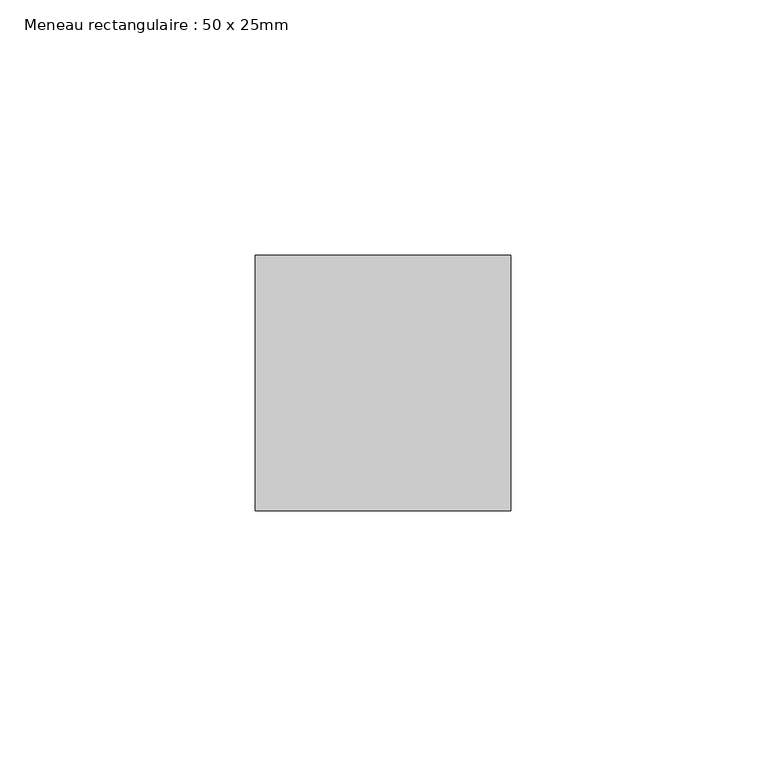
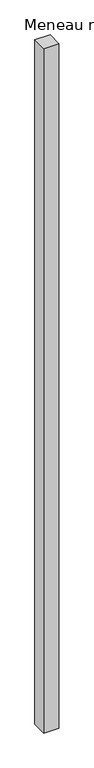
"""IFC4 building model written with IfcOpenShell, lengths in millimetres: member geometry, Meneau rectangulaire : 50 x 25mm."""

from ifc_helpers import new_model, si_unit, frame, origin, place, context, project, spatial, polyline, outline, extrude, source, transform, mapped, element, save


def meneau_rectangulaire_50_x_25mm_c9cfe702(model_context):
    return source(origin(), model_context, "Body", "SweptSolid", [
        extrude(outline(polyline([(25.0, 0.0), (25.0, -50.0), (-25.0, -50.0), (-25.0, 0.0), (25.0, 0.0)])), frame((0.0, 0.0, -2371.0), z_axis=(0.0, 0.0, 1.0), x_axis=(1.0, 0.0, 0.0)), (0.0, 0.0, 1.0), 2371.0),
    ])


if __name__ == "__main__":
    model = new_model("IFC4")
    model_context = context("Model", 3, world=origin())
    ifc_project = project(units=[si_unit("LENGTHUNIT", "METRE", prefix="MILLI")], contexts=[model_context])
    site = spatial("IfcSite", under=ifc_project)
    building = spatial("IfcBuilding", under=site)
    placement = place(None, origin())
    meneau_rectangulaire_50_x_25mm_shape = meneau_rectangulaire_50_x_25mm_c9cfe702(model_context)
    element("IfcMember", 1, ObjectType="Meneau rectangulaire : 50 x 25mm", at=placement, inside=building, context=model_context, shape_type="MappedRepresentation", body=[
        mapped(meneau_rectangulaire_50_x_25mm_shape, transform((0.0, 0.0, 0.0), x_axis=(1.0, 0.0, 0.0), y_axis=(0.0, 1.0, 0.0), z_axis=(0.0, 0.0, 1.0))),
    ])
    save(model, "model.ifc")
